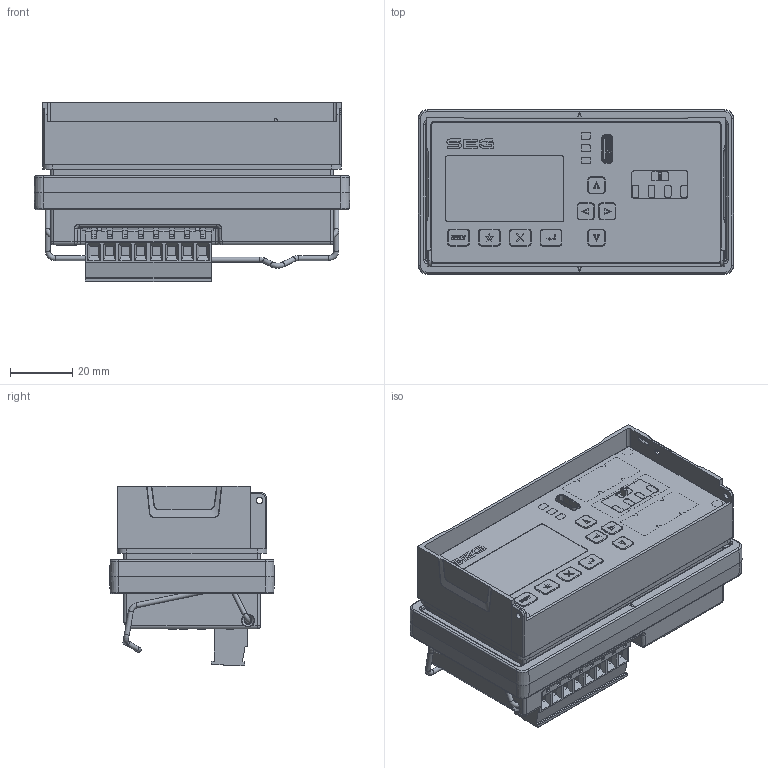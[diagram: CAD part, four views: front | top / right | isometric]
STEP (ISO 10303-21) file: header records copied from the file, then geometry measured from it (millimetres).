
FILE_DESCRIPTION (( 'STEP AP214' ), '1' );
FILE_NAME ('DiggiMEC-A without Hatch.STEP', '2024-08-30T15:25:11', ( '' ), ( '' ), 'SwSTEP 2.0', 'SolidWorks 2023', '' );
FILE_SCHEMA (( 'AUTOMOTIVE_DESIGN' ));
Length unit declared in the file: millimetre
Products named in the file (1): DiggiMEC-A without Hatch
Bounding box: 101.5 x 53 x 57.8 mm (x, y, z)
Surface area: 91780.1 mm2 (no closed solid volume)
Topology: 0 solids, 64 shells, 5483 faces, 14790 edges, 9536 vertices
Faces by surface type: plane 3525, cylinder 1158, bspline 481, cone 159, torus 126, sphere 34
Full cylindrical faces by diameter (mm): 0.217 x1, 0.45 x2, 0.7 x6, 0.94 x2, 1 x1, 1.1 x3, 1.14 x1, 1.45 x8, 1.5 x9, 1.52 x1, 1.6 x15, 2 x5, 2.03 x2, 2.76 x8, 3.5 x4, 3.7 x8, 3.85 x8, 4 x8
Entity records: 242985 total; most frequent: CARTESIAN_POINT 53464, ORIENTED_EDGE 28792, DIRECTION 24297, EDGE_CURVE 14429, LINE 10145, VECTOR 10145, VERTEX_POINT 9440, AXIS2_PLACEMENT_3D 7076
